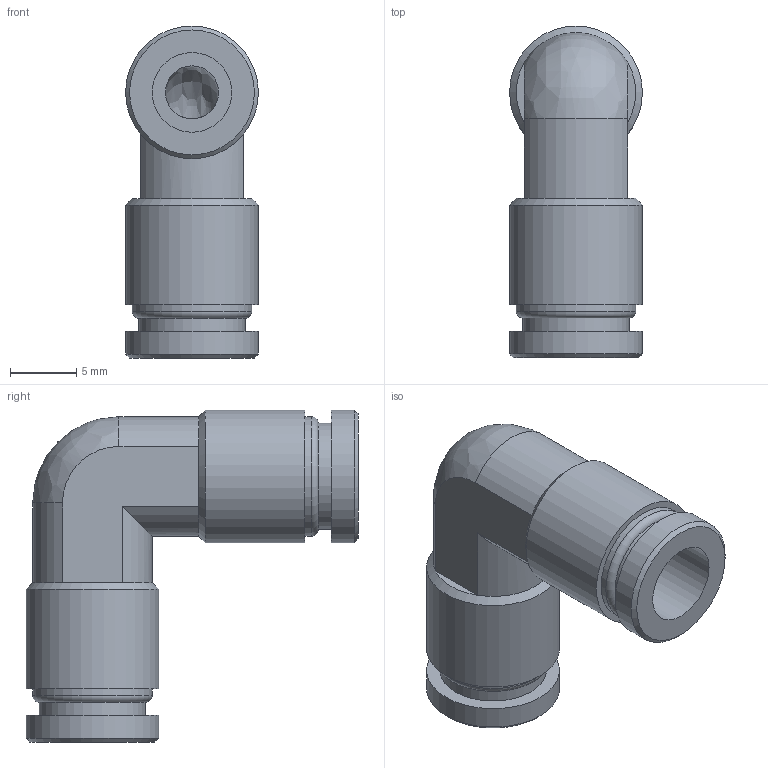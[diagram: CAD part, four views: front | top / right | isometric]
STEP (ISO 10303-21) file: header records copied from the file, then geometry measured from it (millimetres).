
FILE_DESCRIPTION(/* description */ (''),/* implementation_level */ '2;1');
FILE_NAME(/* name */ 'LXH20 0606 00.stp',/* time_stamp */ '2026-04-20T20:05:37+02:00',/* author */ ('freju'),/* organization */ (''),/* preprocessor_version */ 'ST-DEVELOPER v20.1',/* originating_system */ 'Autodesk Inventor 2026',/* authorisation */ '');
FILE_SCHEMA (('AUTOMOTIVE_DESIGN { 1 0 10303 214 3 1 1 }'));
Length unit declared in the file: millimetre
Products named in the file (2): LXH20 0606 00; Raccordo 0606
Assembly tree (1 placements, depth 2):
  LXH20 0606 00
    Raccordo 0606
Bounding box: 10 x 25 x 25 mm (x, y, z)
Volume: 1720.4 mm3; surface area: 2069.9 mm2
Topology: 1 solids, 1 shells, 38 faces, 79 edges, 47 vertices
Faces by surface type: cylinder 16, plane 14, cone 4, torus 2, bspline 2
Full cylindrical faces by diameter (mm): 4 x2, 6 x2, 8 x2, 9 x2, 10 x4
Entity records: 1111 total; most frequent: CARTESIAN_POINT 205, DIRECTION 204, ORIENTED_EDGE 154, AXIS2_PLACEMENT_3D 88, EDGE_CURVE 77, CIRCLE 48, VERTEX_POINT 47, EDGE_LOOP 46
